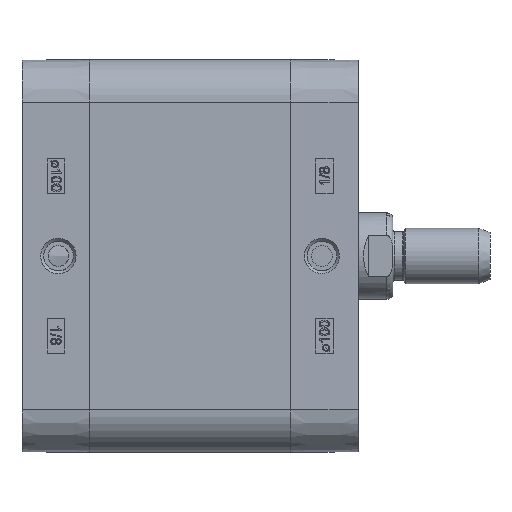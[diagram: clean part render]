
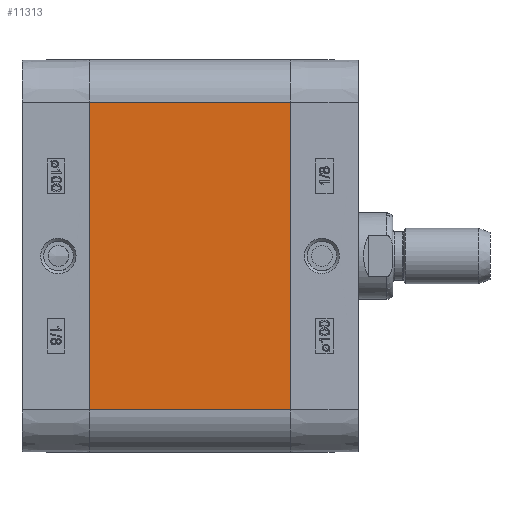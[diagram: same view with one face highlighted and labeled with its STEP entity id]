
A CAD part, left-side view. The second image highlights one B-rep face of the part: STEP entity #11313.
In plain terms, the highlighted planar face has unit normal (-1, 0, 0).
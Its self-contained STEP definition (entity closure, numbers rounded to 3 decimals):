
#5678=CARTESIAN_POINT('',(-56.65,-58.,44.4));
#5679=VERTEX_POINT('',#5678);
#5686=CARTESIAN_POINT('',(-56.65,-58.,-44.4));
#5687=VERTEX_POINT('',#5686);
#5688=CARTESIAN_POINT('',(-56.65,-58.,-44.4));
#5689=DIRECTION('',(0.0,0.0,1.0));
#5690=VECTOR('',#5689,88.8);
#5691=LINE('',#5688,#5690);
#5692=EDGE_CURVE('',#5687,#5679,#5691,.T.);
#11271=CARTESIAN_POINT('',(-56.65,0.0,-44.4));
#11272=VERTEX_POINT('',#11271);
#11273=CARTESIAN_POINT('',(-56.65,0.0,-44.4));
#11274=DIRECTION('',(0.0,-1.0,0.0));
#11275=VECTOR('',#11274,58.);
#11276=LINE('',#11273,#11275);
#11277=EDGE_CURVE('',#11272,#5687,#11276,.T.);
#11290=CARTESIAN_POINT('',(-56.65,0.0,-44.4));
#11291=DIRECTION('',(-1.0,0.0,0.0));
#11292=DIRECTION('',(0.0,0.0,1.0));
#11293=AXIS2_PLACEMENT_3D('',#11290,#11291,#11292);
#11294=PLANE('',#11293);
#11295=ORIENTED_EDGE('',*,*,#5692,.T.);
#11296=CARTESIAN_POINT('',(-56.65,0.0,44.4));
#11297=VERTEX_POINT('',#11296);
#11298=CARTESIAN_POINT('',(-56.65,0.0,44.4));
#11299=DIRECTION('',(0.0,-1.0,0.0));
#11300=VECTOR('',#11299,58.);
#11301=LINE('',#11298,#11300);
#11302=EDGE_CURVE('',#11297,#5679,#11301,.T.);
#11303=ORIENTED_EDGE('',*,*,#11302,.F.);
#11304=CARTESIAN_POINT('',(-56.65,0.0,-44.4));
#11305=DIRECTION('',(0.0,0.0,1.0));
#11306=VECTOR('',#11305,88.8);
#11307=LINE('',#11304,#11306);
#11308=EDGE_CURVE('',#11272,#11297,#11307,.T.);
#11309=ORIENTED_EDGE('',*,*,#11308,.F.);
#11310=ORIENTED_EDGE('',*,*,#11277,.T.);
#11311=EDGE_LOOP('',(#11295,#11303,#11309,#11310));
#11312=FACE_OUTER_BOUND('',#11311,.T.);
#11313=ADVANCED_FACE('',(#11312),#11294,.T.);
